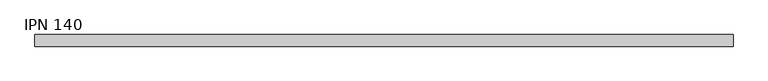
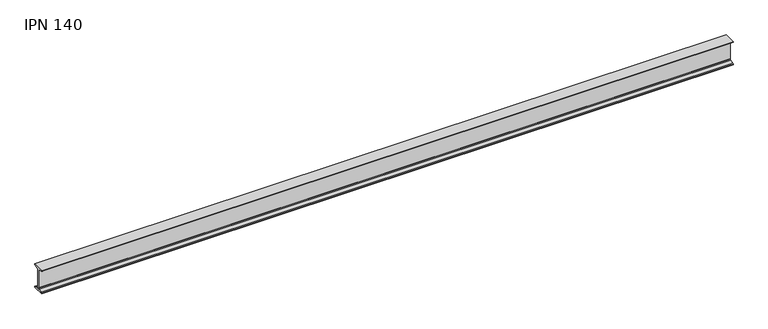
"""IFC4 building model written with IfcOpenShell, lengths in millimetres: beam geometry, IPN - Secciones en I con alas cónicas : IPN 140."""

from ifc_helpers import new_model, si_unit, point, frame, frame_2d, origin, place, context, project, spatial, polyline, circle_curve, trimmed, segment, composite_curve, outline, extrude, source, transform, mapped, element, save


def ipn_140_cbeb944a(model_context):
    return source(origin(), model_context, "Body", "SweptSolid", [
        extrude(outline(composite_curve([segment(polyline([(33.0, 70.0), (33.0, 66.6671583)]), True, "CONTINUOUS"), segment(trimmed(circle_curve(frame_2d((29.6, 66.6671583)), 3.4), [point((33.0, 66.6671583))], [point((30.0714027, 63.2999964))], False, "CARTESIAN"), True, "CONTINUOUS"), segment(polyline([(30.0714027, 63.2999964), (7.7597073, 60.176359)]), True, "CONTINUOUS"), segment(trimmed(circle_curve(frame_2d((8.55, 54.5314111)), 5.7), [point((7.7597073, 60.176359))], [point((2.85, 54.5314111))], True, "CARTESIAN"), True, "CONTINUOUS"), segment(polyline([(2.85, 54.5314111), (2.85, -54.5314111)]), True, "CONTINUOUS"), segment(trimmed(circle_curve(frame_2d((8.55, -54.5314111)), 5.7), [point((2.85, -54.5314111))], [point((7.7597073, -60.176359))], True, "CARTESIAN"), True, "CONTINUOUS"), segment(polyline([(7.7597073, -60.176359), (30.0714027, -63.2999964)]), True, "CONTINUOUS"), segment(trimmed(circle_curve(frame_2d((29.6, -66.6671583)), 3.4), [point((30.0714027, -63.2999964))], [point((33.0, -66.6671583))], False, "CARTESIAN"), True, "CONTINUOUS"), segment(polyline([(33.0, -66.6671583), (33.0, -70.0), (-33.0, -70.0), (-33.0, -66.6671583)]), True, "CONTINUOUS"), segment(trimmed(circle_curve(frame_2d((-29.6, -66.6671583)), 3.4), [point((-33.0, -66.6671583))], [point((-30.0714027, -63.2999964))], False, "CARTESIAN"), True, "CONTINUOUS"), segment(polyline([(-30.0714027, -63.2999964), (-7.7597073, -60.176359)]), True, "CONTINUOUS"), segment(trimmed(circle_curve(frame_2d((-8.55, -54.5314111)), 5.7), [point((-7.7597073, -60.176359))], [point((-2.85, -54.5314111))], True, "CARTESIAN"), True, "CONTINUOUS"), segment(polyline([(-2.85, -54.5314111), (-2.85, 54.5314111)]), True, "CONTINUOUS"), segment(trimmed(circle_curve(frame_2d((-8.55, 54.5314111)), 5.7), [point((-2.85, 54.5314111))], [point((-7.7597073, 60.176359))], True, "CARTESIAN"), True, "CONTINUOUS"), segment(polyline([(-7.7597073, 60.176359), (-30.0714027, 63.2999964)]), True, "CONTINUOUS"), segment(trimmed(circle_curve(frame_2d((-29.6, 66.6671583)), 3.4), [point((-30.0714027, 63.2999964))], [point((-33.0, 66.6671583))], False, "CARTESIAN"), True, "CONTINUOUS"), segment(polyline([(-33.0, 66.6671583), (-33.0, 70.0), (33.0, 70.0)]), True, "CONTINUOUS")], self_intersect=False)), frame((-2296.0, 0.0, 0.0), z_axis=(1.0, 0.0, 0.0), x_axis=(0.0, 1.0, 0.0)), (0.0, 0.0, 1.0), 3963.0),
    ])


if __name__ == "__main__":
    model = new_model("IFC4")
    model_context = context("Model", 3, world=origin())
    ifc_project = project(units=[si_unit("LENGTHUNIT", "METRE", prefix="MILLI")], contexts=[model_context])
    site = spatial("IfcSite", under=ifc_project)
    building = spatial("IfcBuilding", under=site)
    placement = place(None, origin())
    ipn_140_shape = ipn_140_cbeb944a(model_context)
    element("IfcBeam", 1, ObjectType="IPN - Secciones en I con alas cónicas : IPN 140", at=placement, inside=building, context=model_context, shape_type="MappedRepresentation", body=[
        mapped(ipn_140_shape, transform((0.0, 0.0, 0.0), x_axis=(1.0, 0.0, 0.0), y_axis=(0.0, 1.0, 0.0), z_axis=(0.0, 0.0, 1.0))),
    ])
    save(model, "model.ifc")
